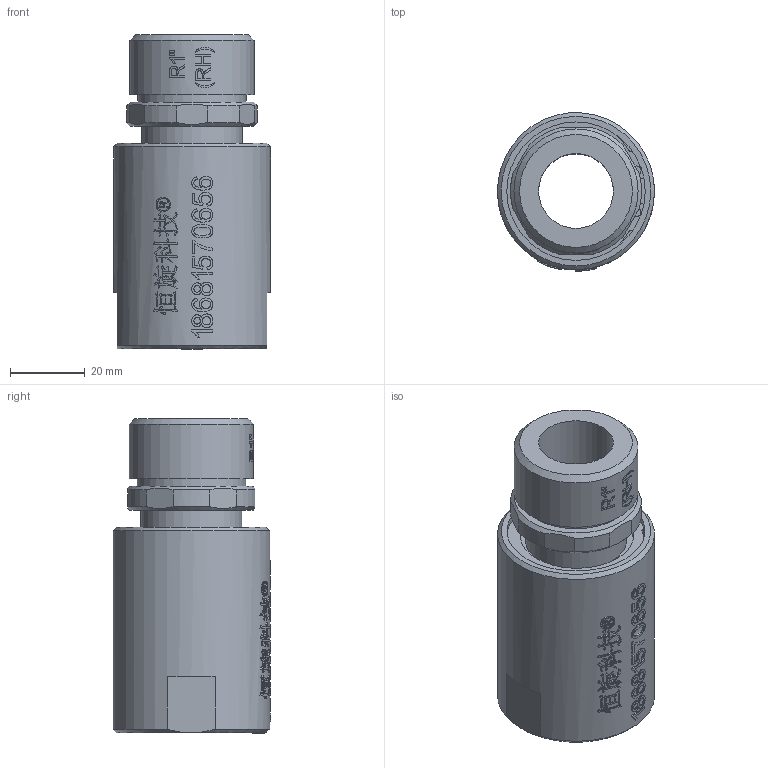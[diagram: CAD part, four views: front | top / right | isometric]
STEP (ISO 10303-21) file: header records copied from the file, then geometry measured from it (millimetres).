
FILE_DESCRIPTION(/* description */ (''),/* implementation_level */ '2;1');
FILE_NAME(/* name */ 'HYK0108(RH)-3D模型.stp',/* time_stamp */ '2025-07-09T10:22:35+08:00',/* author */ (''),/* organization */ (''),/* preprocessor_version */ 'ST-DEVELOPER v16.7',/* originating_system */ 'SIEMENS PLM Software NX 12.0',/* authorisation */ '');
FILE_SCHEMA (('AUTOMOTIVE_DESIGN { 1 0 10303 214 3 1 1 1 }'));
Length unit declared in the file: millimetre
Products named in the file (1): Admi9AC4218F3zl2
Bounding box: 42 x 42.25 x 84.1 mm (x, y, z)
Volume: 65115.3 mm3; surface area: 20170.7 mm2
Topology: 1 solids, 1 shells, 815 faces, 2247 edges, 1498 vertices
Faces by surface type: extrusion 428, plane 302, cylinder 43, bspline 36, cone 6
Full cylindrical faces by diameter (mm): 2.364 x2, 20 x1, 27 x1, 29 x1, 30.3 x1, 33.2 x1, 37 x1, 39 x1, 42 x1
Entity records: 33356 total; most frequent: CARTESIAN_POINT 15862, ORIENTED_EDGE 4450, EDGE_CURVE 2225, B_SPLINE_CURVE_WITH_KNOTS 2116, DIRECTION 1903, VERTEX_POINT 1490, EDGE_LOOP 895, ADVANCED_FACE 815
